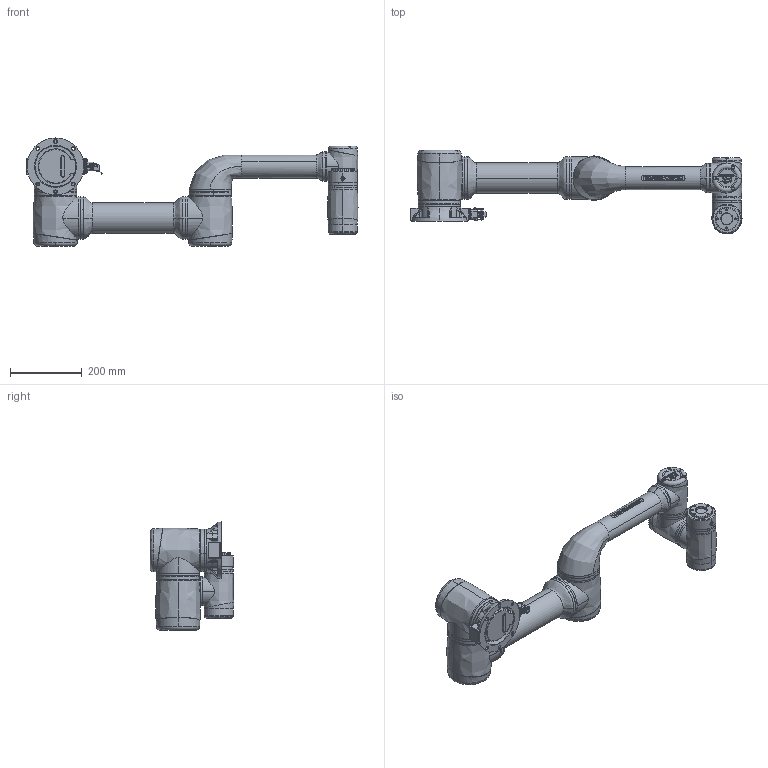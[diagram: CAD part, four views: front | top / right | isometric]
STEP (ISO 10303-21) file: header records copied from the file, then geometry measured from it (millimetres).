
FILE_DESCRIPTION (( 'STEP AP214' ), '1' );
FILE_NAME ('Zu 5.STEP', '2024-11-25T14:52:53', ( '' ), ( '' ), 'SwSTEP 2.0', 'SolidWorks 2024', '' );
FILE_SCHEMA (( 'AUTOMOTIVE_DESIGN' ));
Length unit declared in the file: millimetre
Products named in the file (8): Zu 5 03_默认; Zu 5 02_默认; Zu 5 05_默认; Zu 5 06_默认; Zu 5 01_默认; Zu 5; Zu 5 04_默认; Zu 5 00_默认
Assembly tree (7 placements, depth 2):
  Zu 5
    Zu 5 00_默认
    Zu 5 01_默认
    Zu 5 02_默认
    Zu 5 03_默认
    Zu 5 04_默认
    Zu 5 05_默认
    Zu 5 06_默认
Bounding box: 922.68 x 232.47 x 300.65 mm (x, y, z)
Volume: 11761460.6 mm3; surface area: 752335 mm2
Topology: 13 solids, 17 shells, 3094 faces, 8287 edges, 5417 vertices
Faces by surface type: bspline 1416, plane 1064, cylinder 472, torus 80, cone 59, sphere 3
Entity records: 131069 total; most frequent: CARTESIAN_POINT 63383, ORIENTED_EDGE 16443, DIRECTION 9516, EDGE_CURVE 8269, VERTEX_POINT 5417, VECTOR 4010, LINE 4010, EDGE_LOOP 3343
